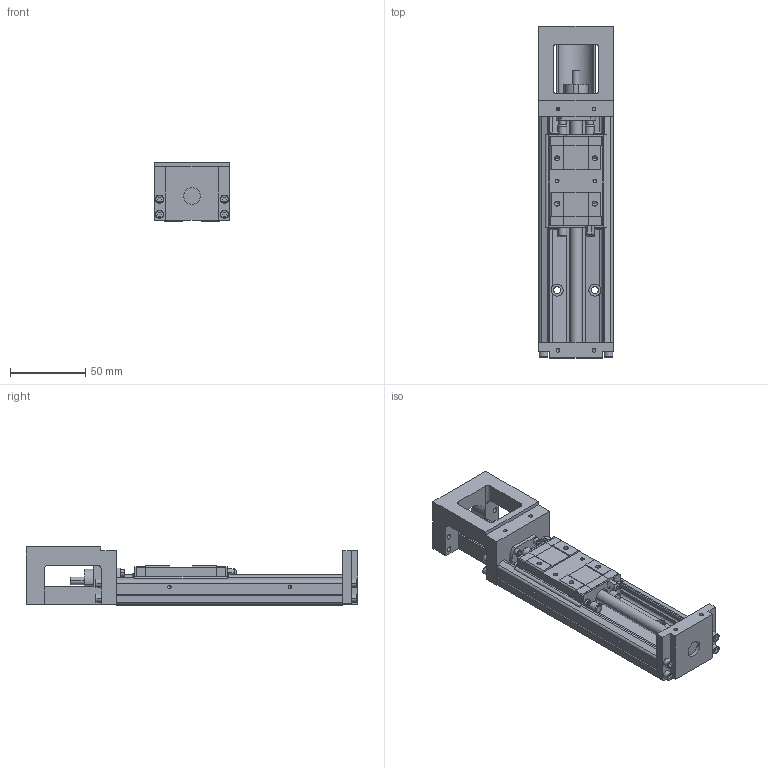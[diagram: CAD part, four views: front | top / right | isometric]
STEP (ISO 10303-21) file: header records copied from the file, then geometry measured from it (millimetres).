
FILE_DESCRIPTION(('no description'),'unknown implementation level');
FILE_NAME('KK5002P150A1F0000_FILE_11.stp',' ',('HIWIN GmbH'),('CADClick - KiM GmbH - www.kimweb.de'),'unknown preprocess','ACIS','unknown authorization');
FILE_SCHEMA(('automotive_design'));
Length unit declared in the file: millimetre
Products named in the file (2): KK50_FILE; KK5002P150A1F0000_FILE
Bounding box: 50 x 220 x 38.5 mm (x, y, z)
Volume: 185006.6 mm3; surface area: 62020.3 mm2
Topology: 2 solids, 10 shells, 654 faces, 1672 edges, 1055 vertices
Faces by surface type: plane 381, cylinder 181, cone 50, torus 42
Entity records: 38760 total; most frequent: CARTESIAN_POINT 3883, DIRECTION 3444, STYLED_ITEM 3349, PRESENTATION_STYLE_ASSIGNMENT 3349, COLOUR_RGB 3349, ORIENTED_EDGE 3276, EDGE_CURVE 1638, CURVE_STYLE 1638
